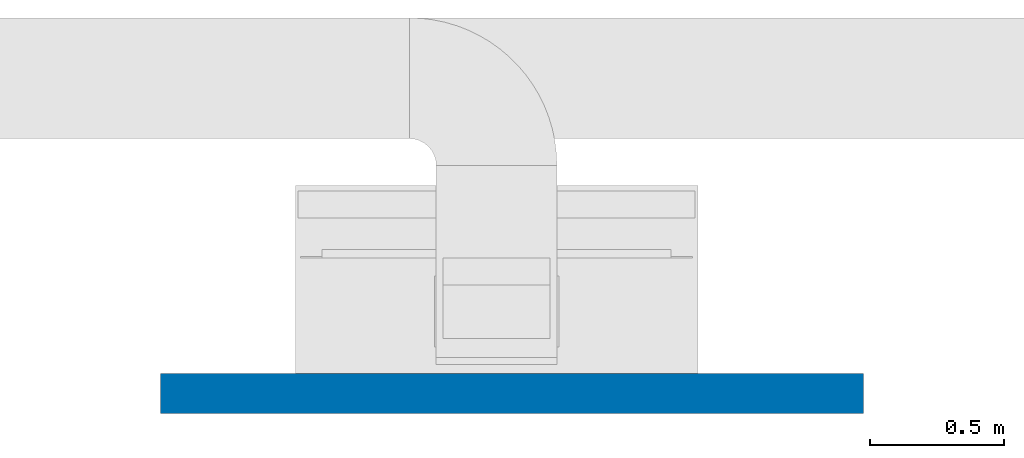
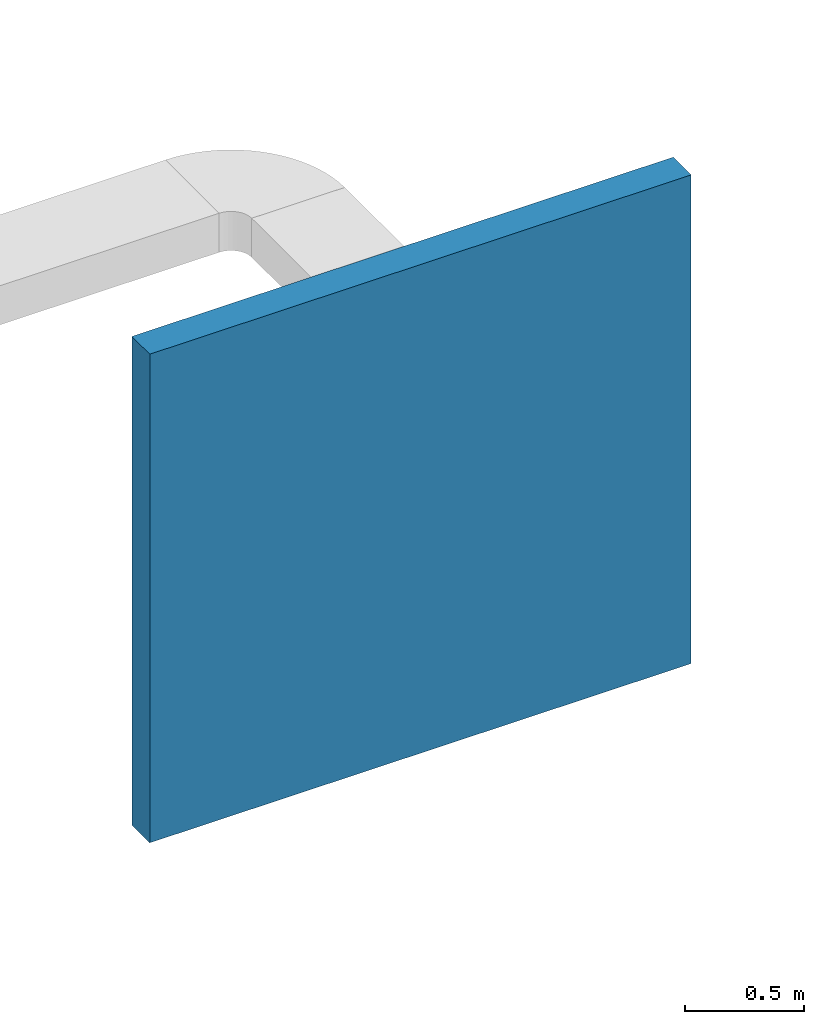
# One storey, part 1 of 22: 1 wall.
"""IFC2X3 building model written with IfcOpenShell, lengths in millimetres."""

from ifc_helpers import new_model, entity, si_unit, converted_unit, derived_unit, direction, frame, frame_2d, origin, place, context, subcontext, project, spatial, rectangle, extrude, material, layer, layer_set, layer_usage, type_object, element, save


model = new_model("IFC2X3")

# Units and contexts
model_context = context("Model", 3, precision=0.01, world=origin(), true_north=direction((6.123233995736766e-17, 1.0)))
body_context = subcontext(model_context, "Body", "Model", "MODEL_VIEW")
ifc_project = project(units=[si_unit("LENGTHUNIT", "METRE", prefix="MILLI"), converted_unit("PLANEANGLEUNIT", "DEGREE", entity("IfcPlaneAngleMeasure", 0.017453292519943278), si_unit("PLANEANGLEUNIT", "RADIAN"), dimensions=[0, 0, 0, 0, 0, 0, 0]), si_unit("AREAUNIT", "SQUARE_METRE"), derived_unit("THERMALTRANSMITTANCEUNIT", [(si_unit("MASSUNIT", "GRAM", prefix="KILO"), 1), (si_unit("THERMODYNAMICTEMPERATUREUNIT", "KELVIN"), -1), (si_unit("TIMEUNIT", "SECOND"), -3)])], contexts=[model_context])

# Site, building, storey
site_placement = place(None, origin())
site = spatial("IfcSite", under=ifc_project, at=site_placement, Name="Default", CompositionType="ELEMENT")
building_placement = place(site_placement, origin())
building = spatial("IfcBuilding", under=site, at=building_placement, Name="Praça Pedro II, 1301 - Centro (Sul), Teresina - PI, 64001-100", CompositionType="ELEMENT")
storey_placement = place(building_placement, frame((0.0, 0.0, 320.0)))
storey = spatial("IfcBuildingStorey", under=building, at=storey_placement, Name="TÉRREO +0.32m", CompositionType="ELEMENT", Elevation=319.99999999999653)

# Wall
ifc_material = material(Name="Material pré-definido de parede")
ifc_layer = layer(ifc_material, 150.0)
ifc_layer_set = layer_set([ifc_layer], Name="Parede básica:Genérico - 150 mm")
ifc_layer_usage = layer_usage(ifc_layer_set, "AXIS2", "NEGATIVE", 75.0)
wall_type = type_object("IfcWallType", Name="Parede básica:Genérico - 150 mm", PredefinedType="STANDARD", material=ifc_layer_set)
wall_placement = place(storey_placement, frame((32584.31288258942, -71866.28932437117, 0.0)))
element("IfcWallStandardCase", 1, at=wall_placement, inside=storey, type_object=wall_type, material=ifc_layer_usage, Name="Parede básica:Genérico - 150 mm", ObjectType="Parede básica:Genérico - 150 mm", context=body_context, shape_type="SweptSolid", body=[
    extrude(rectangle(XDim=2620.0000000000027, YDim=150.00000000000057, at=frame_2d((1310.0000000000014, 3.552713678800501e-14), x_axis=(-1.0, 0.0))), origin(), (0.0, 0.0, 1.0), 2500.0),
])

save(model, "model.ifc")
